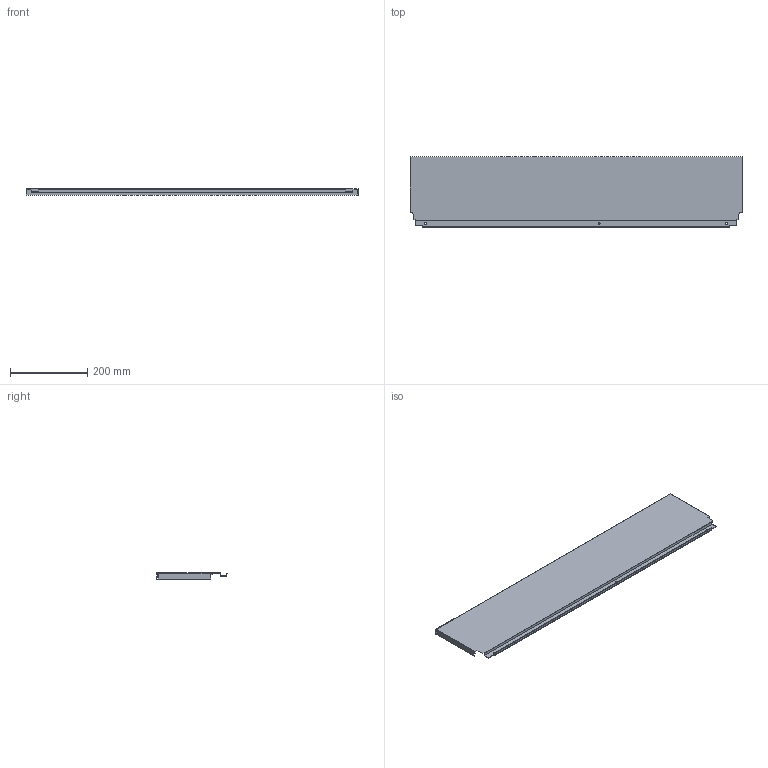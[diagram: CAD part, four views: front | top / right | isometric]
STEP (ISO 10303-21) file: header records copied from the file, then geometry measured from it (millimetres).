
FILE_DESCRIPTION (( 'STEP AP214' ), '1' );
FILE_NAME ('_DWD_XP Stahlrückwand_H182_KAB950_S19.step', '2010-07-08T12:58:11', ( 'grass' ), ( '' ), 'SwSTEP 2.0', 'SolidWorks 2010', '' );
FILE_SCHEMA (( 'AUTOMOTIVE_DESIGN' ));
Length unit declared in the file: millimetre
Products named in the file (1): _DWD_XP Stahlrückwand_H182_KAB950_S19
Bounding box: 861 x 182.49 x 16 mm (x, y, z)
Volume: 161450.1 mm3; surface area: 373235.1 mm2
Topology: 1 solids, 1 shells, 46 faces, 132 edges, 88 vertices
Faces by surface type: plane 40, cylinder 6
Entity records: 1534 total; most frequent: CARTESIAN_POINT 267, ORIENTED_EDGE 264, DIRECTION 238, EDGE_CURVE 132, VECTOR 120, LINE 120, VERTEX_POINT 88, AXIS2_PLACEMENT_3D 59
